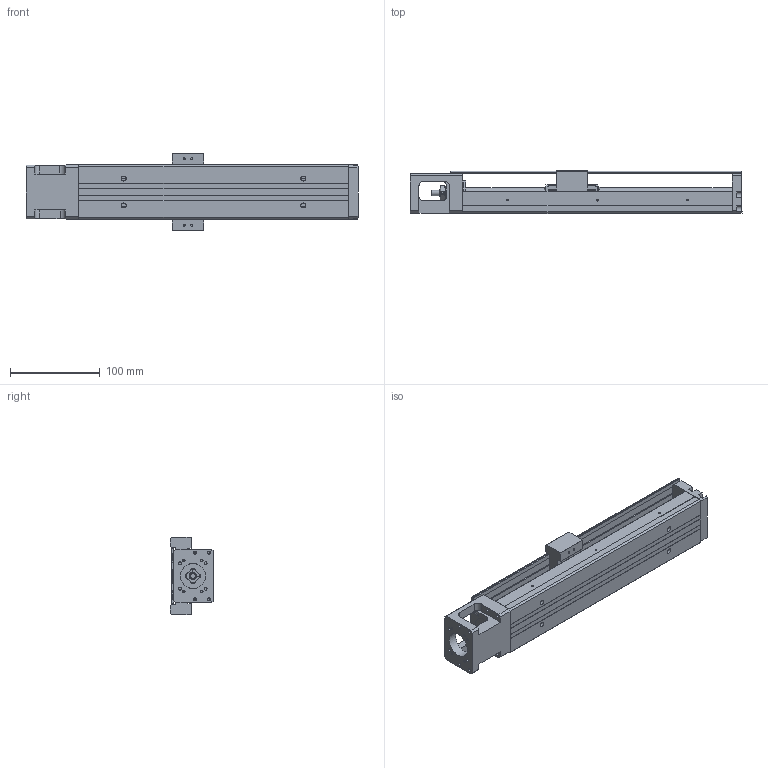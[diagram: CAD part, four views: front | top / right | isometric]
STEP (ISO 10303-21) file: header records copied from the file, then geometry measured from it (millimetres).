
FILE_DESCRIPTION(/* description */ (''),/* implementation_level */ '2;1');
FILE_NAME(/* name */ '33S-300C.stp',/* time_stamp */ '2016-12-20T13:36:52+08:00',/* author */ (''),/* organization */ (''),/* preprocessor_version */ 'ST-DEVELOPER v11',/* originating_system */ 'SIEMENS UGS NX 6.0',/* authorisation */ '');
FILE_SCHEMA (('AUTOMOTIVE_DESIGN { 1 0 10303 214 1 1 1 1 }'));
Length unit declared in the file: millimetre
Products named in the file (1): model4
Bounding box: 370 x 47.95 x 86 mm (x, y, z)
Volume: 502841.5 mm3; surface area: 176417.3 mm2
Topology: 7 solids, 12 shells, 680 faces, 1732 edges, 1143 vertices
Faces by surface type: plane 409, cylinder 186, bspline 31, cone 22, extrusion 21, torus 9, revolution 2
Full cylindrical faces by diameter (mm): 1.6 x2, 1.65 x4, 2.15 x7, 2.42 x4, 2.45 x8, 2.5 x16, 3.2 x4, 3.3 x4, 3.4 x4, 3.5 x10, 3.969 x1, 4 x4, 4.001 x1, 4.135 x2, 4.2 x2, 5.5 x4, 6 x5, 7.6 x1, 8 x5, 9.5 x4, 10.72 x3, 11.8 x2, 12 x6, 12.8 x1, 13 x2, 14 x1, 17.38 x3, 21.5 x1, 22 x2, 28 x1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
Entity records: 35656 total; most frequent: CARTESIAN_POINT 16330, DIRECTION 3094, ORIENTED_EDGE 3022, EDGE_CURVE 1511, AXIS2_PLACEMENT_3D 1071, VERTEX_POINT 1069, EDGE_LOOP 956, VECTOR 950
